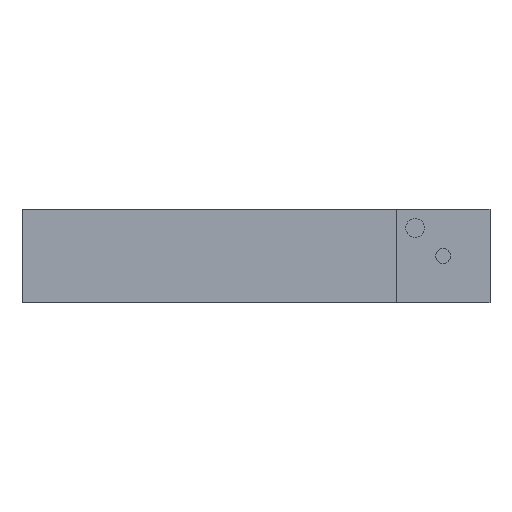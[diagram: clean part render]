
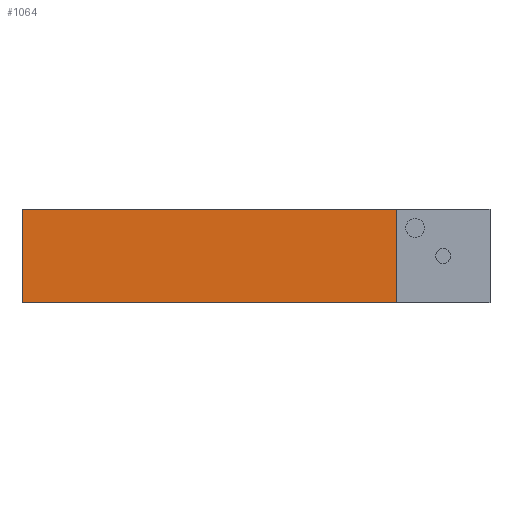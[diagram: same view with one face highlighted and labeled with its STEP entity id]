
A CAD part, left-side view. The second image highlights one B-rep face of the part: STEP entity #1064.
In plain terms, the highlighted planar face has unit normal (-1, 0, 0).
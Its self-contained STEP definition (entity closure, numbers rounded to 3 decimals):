
#512 = CARTESIAN_POINT ( 'NONE',  ( -30., -15., 0. ) ) ;
#531 = CARTESIAN_POINT ( 'NONE',  ( -30., 25., 10. ) ) ;
#545 = CARTESIAN_POINT ( 'NONE',  ( -30., -15., 10. ) ) ;
#573 = CARTESIAN_POINT ( 'NONE',  ( -30., 25., 0. ) ) ;
#812 = VERTEX_POINT ( 'NONE', #512 ) ;
#843 = VERTEX_POINT ( 'NONE', #545 ) ;
#853 = VERTEX_POINT ( 'NONE', #573 ) ;
#864 = VERTEX_POINT ( 'NONE', #531 ) ;
#995 = FACE_OUTER_BOUND ( 'NONE', #2307, .T. ) ;
#1064 = ADVANCED_FACE ( 'NONE', ( #995 ), #1497, .F. ) ;
#1217 = AXIS2_PLACEMENT_3D ( 'NONE', #1485, #1490, #1489 ) ;
#1273 = CARTESIAN_POINT ( 'NONE',  ( -30., 25., 10. ) ) ;
#1274 = DIRECTION ( 'NONE',  ( 0., -1., 0. ) ) ;
#1290 = CARTESIAN_POINT ( 'NONE',  ( -30., 25., 0. ) ) ;
#1318 = DIRECTION ( 'NONE',  ( 0., -1., 0. ) ) ;
#1326 = CARTESIAN_POINT ( 'NONE',  ( -30., -15., 10. ) ) ;
#1333 = DIRECTION ( 'NONE',  ( 0., 0., -1. ) ) ;
#1357 = DIRECTION ( 'NONE',  ( 0., 0., -1. ) ) ;
#1366 = CARTESIAN_POINT ( 'NONE',  ( -30., 25., 10. ) ) ;
#1485 = CARTESIAN_POINT ( 'NONE',  ( -30., 25., 10. ) ) ;
#1489 = DIRECTION ( 'NONE',  ( 0., 1., 0. ) ) ;
#1490 = DIRECTION ( 'NONE',  ( 1., 0., 0. ) ) ;
#1497 = PLANE ( 'NONE',  #1217 ) ;
#2116 = VECTOR ( 'NONE', #1333, 1000. ) ;
#2123 = VECTOR ( 'NONE', #1318, 1000. ) ;
#2126 = LINE ( 'NONE', #1290, #2123 ) ;
#2133 = LINE ( 'NONE', #1326, #2116 ) ;
#2156 = LINE ( 'NONE', #1273, #2157 ) ;
#2157 = VECTOR ( 'NONE', #1274, 1000. ) ;
#2177 = VECTOR ( 'NONE', #1357, 1000. ) ;
#2183 = LINE ( 'NONE', #1366, #2177 ) ;
#2307 = EDGE_LOOP ( 'NONE', ( #2623, #2663, #2632, #2636 ) ) ;
#2415 = EDGE_CURVE ( 'NONE', #864, #843, #2156, .T. ) ;
#2450 = EDGE_CURVE ( 'NONE', #843, #812, #2133, .T. ) ;
#2470 = EDGE_CURVE ( 'NONE', #853, #812, #2126, .T. ) ;
#2504 = EDGE_CURVE ( 'NONE', #864, #853, #2183, .T. ) ;
#2623 = ORIENTED_EDGE ( 'NONE', *, *, #2470, .T. ) ;
#2632 = ORIENTED_EDGE ( 'NONE', *, *, #2415, .F. ) ;
#2636 = ORIENTED_EDGE ( 'NONE', *, *, #2504, .T. ) ;
#2663 = ORIENTED_EDGE ( 'NONE', *, *, #2450, .F. ) ;
